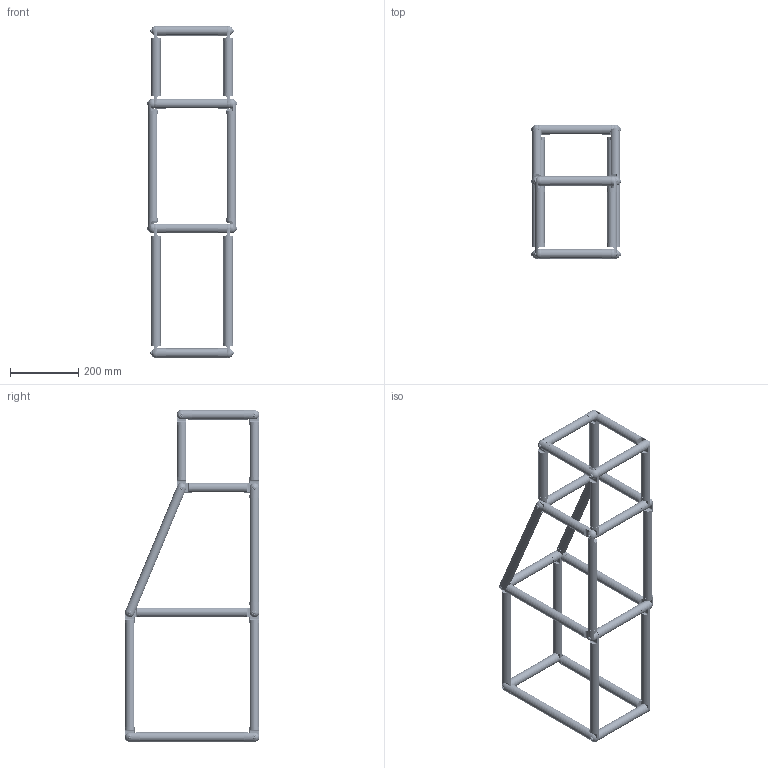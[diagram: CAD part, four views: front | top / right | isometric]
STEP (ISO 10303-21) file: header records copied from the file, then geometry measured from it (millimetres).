
FILE_DESCRIPTION (( 'STEP AP203' ), '1' );
FILE_NAME ('Cube to Rectangle.STEP', '2013-06-07T20:06:36', ( 'Allred & Associates' ), ( 'Allred & Associates' ), 'SwSTEP 2.0', 'SolidWorks 2013', '' );
FILE_SCHEMA (( 'CONFIG_CONTROL_DESIGN' ));
Length unit declared in the file: inch
Products named in the file (1): Cube to Rectangle
Bounding box: 262.59 x 395.15 x 975.89 mm (x, y, z)
Volume: 1829117.4 mm3; surface area: 1677209.2 mm2
Topology: 101 solids, 101 shells, 5291 faces, 11071 edges, 6032 vertices
Faces by surface type: cylinder 2394, cone 2087, plane 600, torus 112, sphere 98
Entity records: 190698 total; most frequent: CARTESIAN_POINT 81434, DIRECTION 23299, ORIENTED_EDGE 21982, EDGE_CURVE 10991, AXIS2_PLACEMENT_3D 9271, VERTEX_POINT 6032, EDGE_LOOP 5589, ADVANCED_FACE 5291
